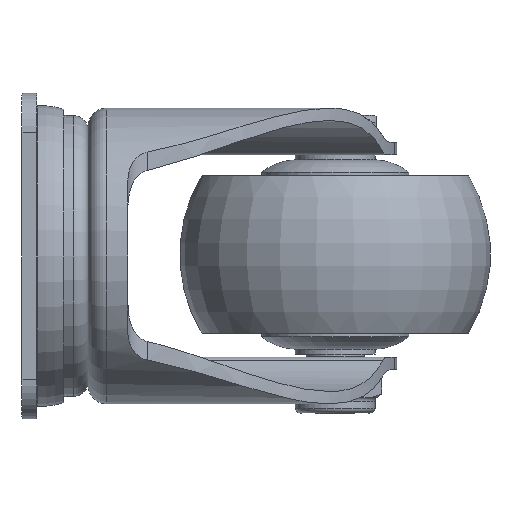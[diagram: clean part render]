
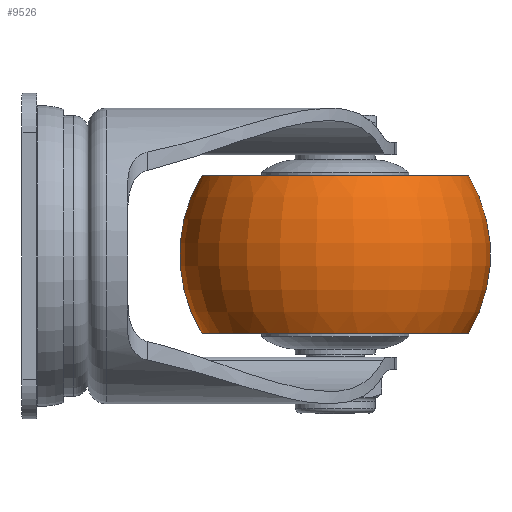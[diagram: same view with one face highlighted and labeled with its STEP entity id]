
A CAD part, left-side view. The second image highlights one B-rep face of the part: STEP entity #9526.
In plain terms, the highlighted toroidal (fillet/blend) face has major radius 0.806 mm and minor radius 30.694 mm.
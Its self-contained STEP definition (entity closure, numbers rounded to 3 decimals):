
#7590 = CARTESIAN_POINT ( 'NONE',  ( 0., -16., -27. ) ) ;
#7591 = CARTESIAN_POINT ( 'NONE',  ( 0., -16., 27. ) ) ;
#7592 = DIRECTION ( 'NONE',  ( 0., 0., -1. ) ) ;
#7593 = DIRECTION ( 'NONE',  ( 1., 0., 0. ) ) ;
#7594 = CARTESIAN_POINT ( 'NONE',  ( 0., 0., 0.806 ) ) ;
#7595 = AXIS2_PLACEMENT_3D ( 'NONE', #7594, #7593, #7592 ) ;
#7596 = CIRCLE ( 'NONE', #7595, 30.694 ) ;
#7597 = CARTESIAN_POINT ( 'NONE',  ( 0., 16., 27. ) ) ;
#7598 = CARTESIAN_POINT ( 'NONE',  ( 0., 16., -27. ) ) ;
#7632 = DIRECTION ( 'NONE',  ( 0., 0., 1. ) ) ;
#7633 = DIRECTION ( 'NONE',  ( -1., 0., 0. ) ) ;
#7634 = AXIS2_PLACEMENT_3D ( 'NONE', #7641, #7633, #7632 ) ;
#7635 = CIRCLE ( 'NONE', #7634, 30.694 ) ;
#7641 = CARTESIAN_POINT ( 'NONE',  ( 0., 0., -0.806 ) ) ;
#9001 = VERTEX_POINT ( 'NONE', #7598 ) ;
#9002 = VERTEX_POINT ( 'NONE', #7597 ) ;
#9004 = EDGE_CURVE ( 'NONE', #9002, #9005, #7596, .T. ) ;
#9005 = VERTEX_POINT ( 'NONE', #7591 ) ;
#9006 = VERTEX_POINT ( 'NONE', #7590 ) ;
#9016 = EDGE_CURVE ( 'NONE', #9001, #9006, #7635, .T. ) ;
#9519 = EDGE_CURVE ( 'NONE', #9002, #9001, #16707, .T. ) ;
#9526 = ADVANCED_FACE ( 'NONE', ( #16703 ), #16702, .T. ) ;
#9527 = EDGE_LOOP ( 'NONE', ( #9528, #9608, #9610, #9611 ) ) ;
#9528 = ORIENTED_EDGE ( 'NONE', *, *, #9004, .F. ) ;
#9608 = ORIENTED_EDGE ( 'NONE', *, *, #9519, .T. ) ;
#9610 = ORIENTED_EDGE ( 'NONE', *, *, #9016, .T. ) ;
#9611 = ORIENTED_EDGE ( 'NONE', *, *, #9613, .F. ) ;
#9613 = EDGE_CURVE ( 'NONE', #9005, #9006, #16778, .T. ) ;
#16697 = DIRECTION ( 'NONE',  ( 0., 0., -1. ) ) ;
#16698 = DIRECTION ( 'NONE',  ( 0., -1., 0. ) ) ;
#16699 = CARTESIAN_POINT ( 'NONE',  ( 0., 0., 0. ) ) ;
#16700 = AXIS2_PLACEMENT_3D ( 'NONE', #16699, #16698, #16697 ) ;
#16702 = TOROIDAL_SURFACE ( 'NONE', #16700, 0.806, 30.694 ) ;
#16703 = FACE_OUTER_BOUND ( 'NONE', #9527, .T. ) ;
#16704 = DIRECTION ( 'NONE',  ( 0., 0., -1. ) ) ;
#16705 = DIRECTION ( 'NONE',  ( 0., -1., 0. ) ) ;
#16706 = AXIS2_PLACEMENT_3D ( 'NONE', #16711, #16705, #16704 ) ;
#16707 = CIRCLE ( 'NONE', #16706, 27. ) ;
#16711 = CARTESIAN_POINT ( 'NONE',  ( 0., 16., 0. ) ) ;
#16774 = DIRECTION ( 'NONE',  ( 0., 0., -1. ) ) ;
#16775 = DIRECTION ( 'NONE',  ( 0., -1., 0. ) ) ;
#16776 = CARTESIAN_POINT ( 'NONE',  ( 0., -16., 0. ) ) ;
#16777 = AXIS2_PLACEMENT_3D ( 'NONE', #16776, #16775, #16774 ) ;
#16778 = CIRCLE ( 'NONE', #16777, 27. ) ;
